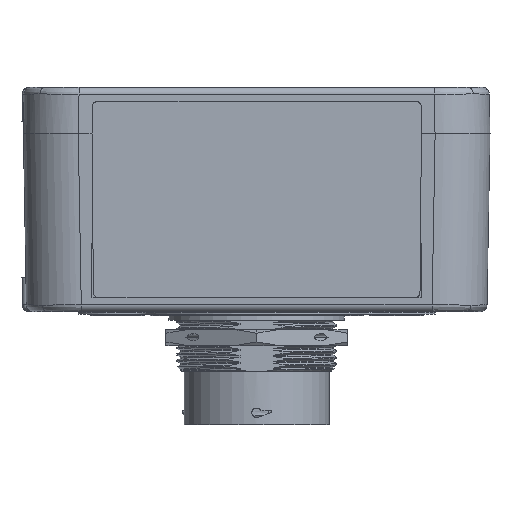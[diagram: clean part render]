
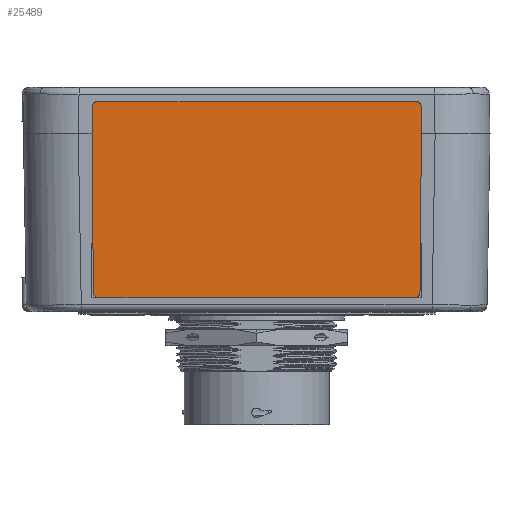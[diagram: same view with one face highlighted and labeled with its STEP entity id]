
A CAD part, front view. The second image highlights one B-rep face of the part: STEP entity #25489.
In plain terms, the highlighted planar face has unit normal (0, -1, 0).
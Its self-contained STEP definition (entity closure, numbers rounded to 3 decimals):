
#13682 = FACE_OUTER_BOUND ( 'NONE', #52088, .T. ) ;
#16283 = VERTEX_POINT ( 'NONE', #49164 ) ;
#21723 = ORIENTED_EDGE ( 'NONE', *, *, #174945, .T. ) ;
#24010 = DIRECTION ( 'NONE',  ( 0., 0., -1. ) ) ;
#24930 = VECTOR ( 'NONE', #132938, 1000. ) ;
#25489 = ADVANCED_FACE ( 'NONE', ( #13682 ), #102885, .T. ) ;
#37284 = EDGE_CURVE ( 'NONE', #141304, #69419, #69617, .T. ) ;
#41887 = CARTESIAN_POINT ( 'NONE',  ( 36., -71.258, -152.802 ) ) ;
#49164 = CARTESIAN_POINT ( 'NONE',  ( 36., -71.258, 7.95 ) ) ;
#51817 = DIRECTION ( 'NONE',  ( 0., 0., 1. ) ) ;
#52088 = EDGE_LOOP ( 'NONE', ( #124431, #21723, #207661, #145895 ) ) ;
#58040 = CARTESIAN_POINT ( 'NONE',  ( -36., -71.258, -34.8 ) ) ;
#58469 = CARTESIAN_POINT ( 'NONE',  ( -36., -71.258, -34.8 ) ) ;
#69419 = VERTEX_POINT ( 'NONE', #156508 ) ;
#69617 = LINE ( 'NONE', #145747, #201424 ) ;
#73093 = CARTESIAN_POINT ( 'NONE',  ( 36., -71.258, -34.8 ) ) ;
#87368 = DIRECTION ( 'NONE',  ( 0., -1., 0. ) ) ;
#94191 = LINE ( 'NONE', #41887, #226201 ) ;
#102885 = PLANE ( 'NONE',  #173216 ) ;
#103748 = CARTESIAN_POINT ( 'NONE',  ( -36., -71.258, 7.95 ) ) ;
#114985 = VECTOR ( 'NONE', #159699, 1000. ) ;
#116873 = VERTEX_POINT ( 'NONE', #73093 ) ;
#124431 = ORIENTED_EDGE ( 'NONE', *, *, #212480, .F. ) ;
#132938 = DIRECTION ( 'NONE',  ( -1., 0., 0. ) ) ;
#141304 = VERTEX_POINT ( 'NONE', #58469 ) ;
#145747 = CARTESIAN_POINT ( 'NONE',  ( -36., -71.258, 125.952 ) ) ;
#145895 = ORIENTED_EDGE ( 'NONE', *, *, #149369, .F. ) ;
#149369 = EDGE_CURVE ( 'NONE', #116873, #141304, #219825, .T. ) ;
#156508 = CARTESIAN_POINT ( 'NONE',  ( -36., -71.258, 7.95 ) ) ;
#158846 = DIRECTION ( 'NONE',  ( 0., 0., -1. ) ) ;
#159699 = DIRECTION ( 'NONE',  ( -1., 0., 0. ) ) ;
#173216 = AXIS2_PLACEMENT_3D ( 'NONE', #175515, #87368, #158846 ) ;
#174945 = EDGE_CURVE ( 'NONE', #16283, #69419, #191839, .T. ) ;
#175515 = CARTESIAN_POINT ( 'NONE',  ( 0., -71.258, -13.425 ) ) ;
#191839 = LINE ( 'NONE', #103748, #114985 ) ;
#201424 = VECTOR ( 'NONE', #51817, 1000. ) ;
#207661 = ORIENTED_EDGE ( 'NONE', *, *, #37284, .F. ) ;
#212480 = EDGE_CURVE ( 'NONE', #16283, #116873, #94191, .T. ) ;
#219825 = LINE ( 'NONE', #58040, #24930 ) ;
#226201 = VECTOR ( 'NONE', #24010, 1000. ) ;
